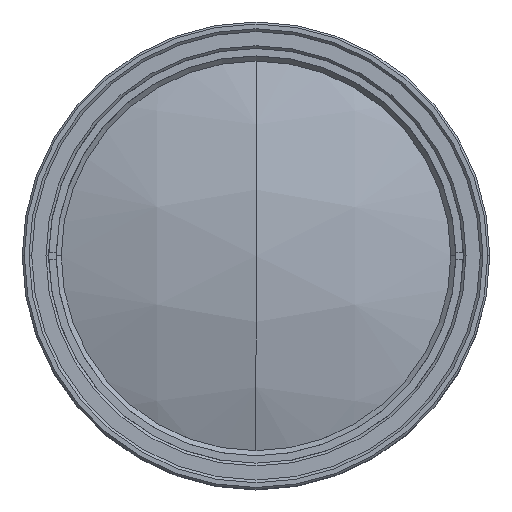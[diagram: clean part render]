
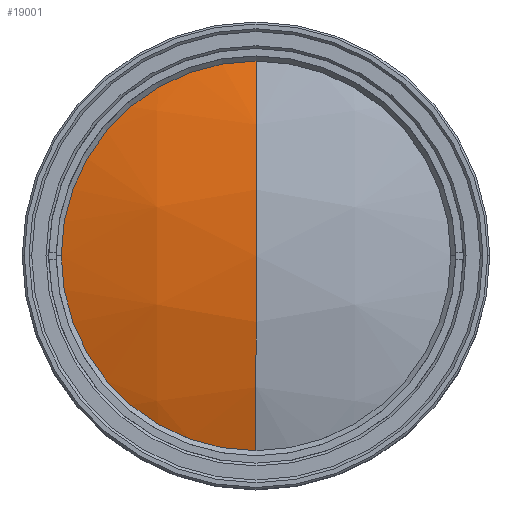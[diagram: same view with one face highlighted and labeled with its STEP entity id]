
A CAD part, top view. The second image highlights one B-rep face of the part: STEP entity #19001.
In plain terms, the highlighted spherical face has radius 83.85 mm.
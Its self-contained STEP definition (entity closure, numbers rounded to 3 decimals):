
#568 = DIRECTION ( 'NONE',  ( 0., -1., 0. ) ) ;
#693 = CARTESIAN_POINT ( 'NONE',  ( 0., 0., 1.39 ) ) ;
#874 = ORIENTED_EDGE ( 'NONE', *, *, #10686, .F. ) ;
#1455 = EDGE_LOOP ( 'NONE', ( #24472, #8042, #11085, #874 ) ) ;
#2135 = EDGE_CURVE ( 'NONE', #13208, #2756, #3947, .T. ) ;
#2157 = DIRECTION ( 'NONE',  ( 0., 0., 1. ) ) ;
#2355 = CARTESIAN_POINT ( 'NONE',  ( 0., 0., 80.157 ) ) ;
#2682 = CIRCLE ( 'NONE', #2733, 28.75 ) ;
#2733 = AXIS2_PLACEMENT_3D ( 'NONE', #13901, #2157, #15869 ) ;
#2756 = VERTEX_POINT ( 'NONE', #4245 ) ;
#3947 = CIRCLE ( 'NONE', #7352, 83.85 ) ;
#4245 = CARTESIAN_POINT ( 'NONE',  ( 0., 0., 85.24 ) ) ;
#4324 = DIRECTION ( 'NONE',  ( 1., 0., 0. ) ) ;
#4436 = CARTESIAN_POINT ( 'NONE',  ( -28.75, 0., 80.157 ) ) ;
#5656 = CARTESIAN_POINT ( 'NONE',  ( 0., -28.75, 80.157 ) ) ;
#6754 = CARTESIAN_POINT ( 'NONE',  ( 0., 28.75, 80.157 ) ) ;
#7352 = AXIS2_PLACEMENT_3D ( 'NONE', #693, #23811, #568 ) ;
#7825 = CARTESIAN_POINT ( 'NONE',  ( 0., 0., 1.39 ) ) ;
#8042 = ORIENTED_EDGE ( 'NONE', *, *, #16727, .T. ) ;
#8794 = CIRCLE ( 'NONE', #9648, 28.75 ) ;
#9051 = DIRECTION ( 'NONE',  ( -1., 0., 0. ) ) ;
#9648 = AXIS2_PLACEMENT_3D ( 'NONE', #2355, #16067, #4324 ) ;
#9792 = DIRECTION ( 'NONE',  ( 0., 0., -1. ) ) ;
#10686 = EDGE_CURVE ( 'NONE', #11342, #2756, #10764, .T. ) ;
#10764 = CIRCLE ( 'NONE', #19397, 83.85 ) ;
#11085 = ORIENTED_EDGE ( 'NONE', *, *, #2135, .T. ) ;
#11094 = CARTESIAN_POINT ( 'NONE',  ( 0., 0., 1.39 ) ) ;
#11342 = VERTEX_POINT ( 'NONE', #6754 ) ;
#13071 = DIRECTION ( 'NONE',  ( 0., 1., 0. ) ) ;
#13208 = VERTEX_POINT ( 'NONE', #5656 ) ;
#13322 = SPHERICAL_SURFACE ( 'NONE', #17369, 83.85 ) ;
#13901 = CARTESIAN_POINT ( 'NONE',  ( 0., 0., 80.157 ) ) ;
#15869 = DIRECTION ( 'NONE',  ( 1., 0., 0. ) ) ;
#16067 = DIRECTION ( 'NONE',  ( 0., 0., 1. ) ) ;
#16727 = EDGE_CURVE ( 'NONE', #18889, #13208, #2682, .T. ) ;
#17369 = AXIS2_PLACEMENT_3D ( 'NONE', #11094, #9051, #13071 ) ;
#17711 = EDGE_CURVE ( 'NONE', #11342, #18889, #8794, .T. ) ;
#18889 = VERTEX_POINT ( 'NONE', #4436 ) ;
#19001 = ADVANCED_FACE ( 'NONE', ( #23119 ), #13322, .T. ) ;
#19397 = AXIS2_PLACEMENT_3D ( 'NONE', #7825, #21509, #9792 ) ;
#21509 = DIRECTION ( 'NONE',  ( 1., 0., 0. ) ) ;
#23119 = FACE_OUTER_BOUND ( 'NONE', #1455, .T. ) ;
#23811 = DIRECTION ( 'NONE',  ( -1., 0., 0. ) ) ;
#24472 = ORIENTED_EDGE ( 'NONE', *, *, #17711, .T. ) ;
